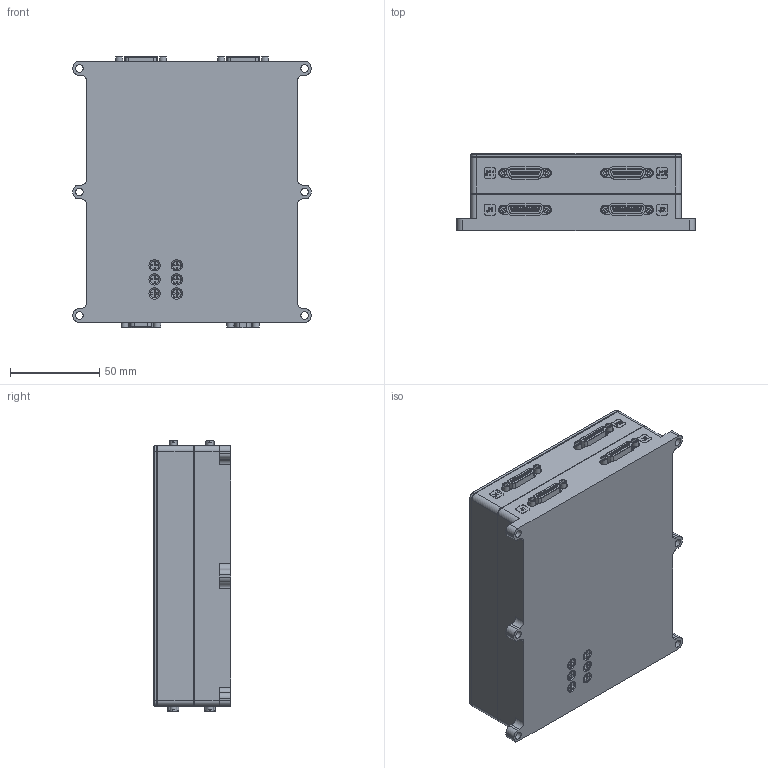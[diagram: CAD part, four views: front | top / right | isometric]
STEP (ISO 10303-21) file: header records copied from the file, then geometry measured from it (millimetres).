
FILE_DESCRIPTION (( 'STEP AP214' ), '1' );
FILE_NAME ('184-9025-02 Outline, Remote Elex, 2 RH, Stacked.STEP', '2020-04-30T14:27:26', ( '' ), ( '' ), 'SwSTEP 2.0', 'SolidWorks 2019', '' );
FILE_SCHEMA (( 'AUTOMOTIVE_DESIGN' ));
Length unit declared in the file: inch
Products named in the file (1): 184-9025-02 Outline, Remote Elex, 2 RH, Stacked
Bounding box: 133.35 x 43.26 x 152.02 mm (x, y, z)
Volume: 746211.9 mm3; surface area: 66900.4 mm2
Topology: 1 solids, 53 shells, 3069 faces, 7336 edges, 4799 vertices
Faces by surface type: plane 1623, cylinder 787, bspline 491, cone 166, torus 2
Full cylindrical faces by diameter (mm): 0.508 x130, 0.564 x18, 0.635 x30, 0.813 x36, 0.94 x100, 1.778 x16, 1.844 x1, 2.184 x16, 2.261 x6, 2.845 x6, 2.851 x1, 3.023 x16, 3.175 x16, 3.264 x6, 3.505 x4, 3.797 x8, 3.962 x16, 4.318 x6, 4.851 x6, 6.045 x8, 6.858 x2
Entity records: 145188 total; most frequent: CARTESIAN_POINT 40510, ORIENTED_EDGE 12830, DIRECTION 12561, EDGE_CURVE 6415, VERTEX_POINT 4590, AXIS2_PLACEMENT_3D 4555, EDGE_LOOP 4331, FACE_OUTER_BOUND 3665
